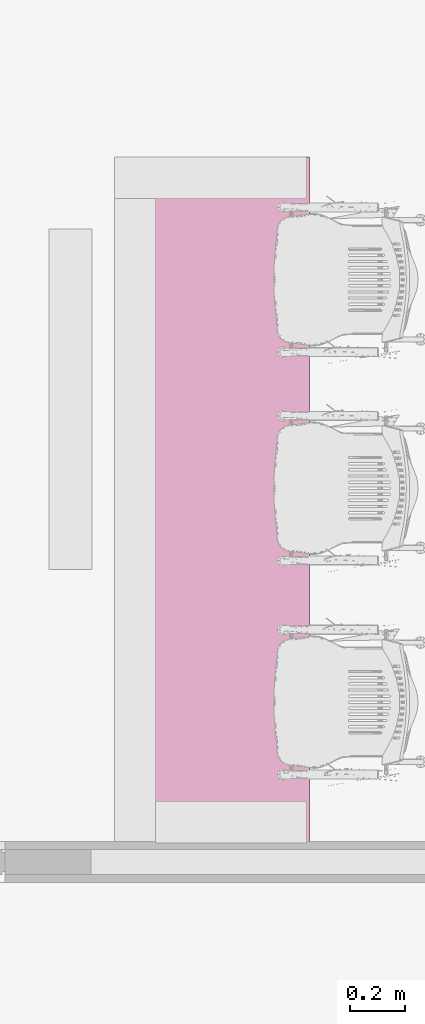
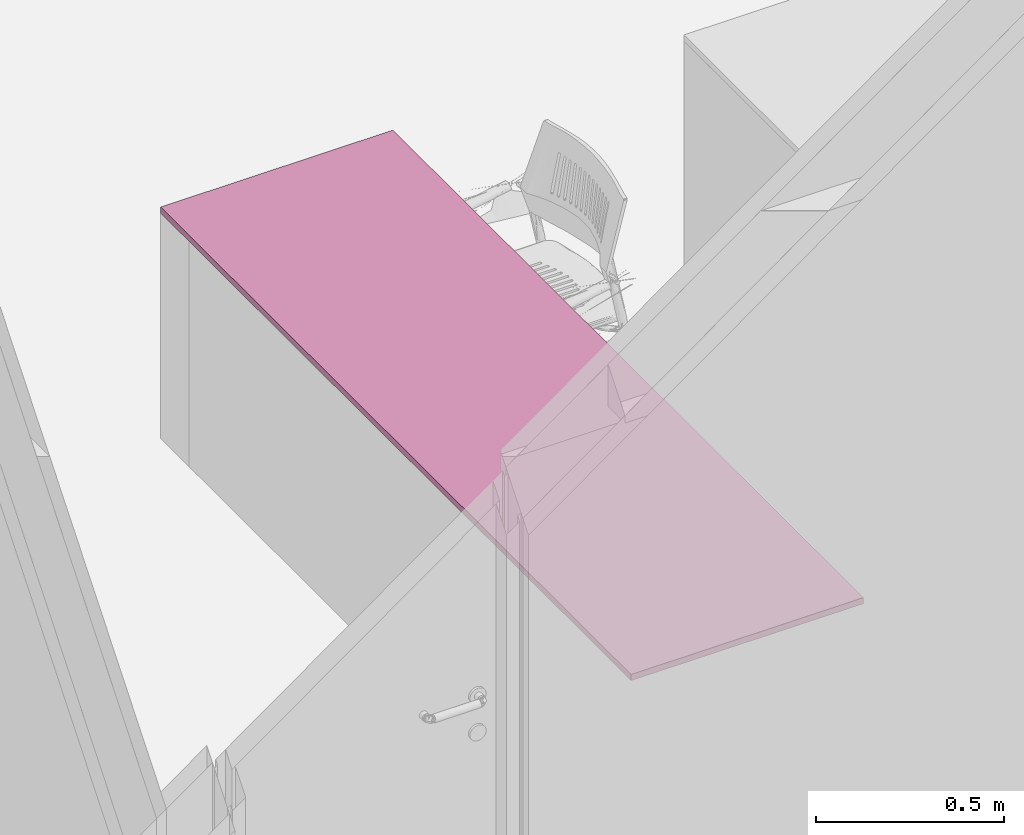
# One storey, part 143 of 155: 1 furnishing.
"""IFC2X3 building model written with IfcOpenShell, lengths in metres."""

from ifc_helpers import new_model, entity, si_unit, converted_unit, derived_unit, direction, frame, frame_2d, origin, place, context, subcontext, project, spatial, rectangle, extrude, source, transform, mapped, type_object, type_shapes, element, save


model = new_model("IFC2X3")

# Units and contexts
model_context = context("Model", 3, precision=1e-05, world=origin(), true_north=direction((6.12303176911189e-17, 1.0)))
body_context = subcontext(model_context, "Body", "Model", "MODEL_VIEW")
ifc_project = project(units=[si_unit("LENGTHUNIT", "METRE"), si_unit("AREAUNIT", "SQUARE_METRE"), si_unit("VOLUMEUNIT", "CUBIC_METRE"), converted_unit("PLANEANGLEUNIT", "DEGREE", entity("IfcRatioMeasure", 0.0174532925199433), si_unit("PLANEANGLEUNIT", "RADIAN"), dimensions=[0, 0, 0, 0, 0, 0, 0]), si_unit("MASSUNIT", "GRAM", prefix="KILO"), derived_unit("MASSDENSITYUNIT", [(si_unit("MASSUNIT", "GRAM", prefix="KILO"), 1), (si_unit("LENGTHUNIT", "METRE"), -3)]), si_unit("TIMEUNIT", "SECOND"), si_unit("FREQUENCYUNIT", "HERTZ"), si_unit("THERMODYNAMICTEMPERATUREUNIT", "DEGREE_CELSIUS"), derived_unit("THERMALTRANSMITTANCEUNIT", [(si_unit("MASSUNIT", "GRAM", prefix="KILO"), 1), (si_unit("THERMODYNAMICTEMPERATUREUNIT", "KELVIN"), -1), (si_unit("TIMEUNIT", "SECOND"), -3)]), derived_unit("VOLUMETRICFLOWRATEUNIT", [(si_unit("LENGTHUNIT", "METRE"), 3), (si_unit("TIMEUNIT", "SECOND"), -1)]), si_unit("ELECTRICCURRENTUNIT", "AMPERE"), si_unit("ELECTRICVOLTAGEUNIT", "VOLT"), si_unit("POWERUNIT", "WATT"), si_unit("FORCEUNIT", "NEWTON", prefix="KILO"), si_unit("ILLUMINANCEUNIT", "LUX"), si_unit("LUMINOUSFLUXUNIT", "LUMEN"), si_unit("LUMINOUSINTENSITYUNIT", "CANDELA"), derived_unit("USERDEFINED", [(si_unit("MASSUNIT", "GRAM", prefix="KILO"), -1), (si_unit("LENGTHUNIT", "METRE"), -2), (si_unit("TIMEUNIT", "SECOND"), 3), (si_unit("LUMINOUSFLUXUNIT", "LUMEN"), 1)]), derived_unit("LINEARVELOCITYUNIT", [(si_unit("LENGTHUNIT", "METRE"), 1), (si_unit("TIMEUNIT", "SECOND"), -1)]), si_unit("PRESSUREUNIT", "PASCAL"), derived_unit("USERDEFINED", [(si_unit("LENGTHUNIT", "METRE"), -2), (si_unit("MASSUNIT", "GRAM", prefix="KILO"), 1), (si_unit("TIMEUNIT", "SECOND"), -2)])], contexts=[model_context])

# Site, building, storey, space
site_placement = place(None, frame((26.9889013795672, -17.5624287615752, 0.0)))
site = spatial("IfcSite", under=ifc_project, at=site_placement, Name="Default", CompositionType="ELEMENT")
building_placement = place(site_placement, origin())
building = spatial("IfcBuilding", under=site, at=building_placement, Name="C. C. L. Monsenhor Antônio Sampaio", CompositionType="ELEMENT")
storey_placement = place(building_placement, frame((0.0, 0.0, 1.19999999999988)))
storey = spatial("IfcBuildingStorey", under=building, at=storey_placement, Name="Nível 1.2", CompositionType="ELEMENT", Elevation=1.19999999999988)
space_placement = place(storey_placement, origin())
space = spatial("IfcSpace", under=storey, at=space_placement, Name="89", CompositionType="ELEMENT", InteriorOrExteriorSpace="INTERNAL")

# Furnishing
furniture_type = type_object("IfcFurnitureType", Name="Bancada")
shared_shape = source(origin(), body_context, "Body", "SweptSolid", [
    extrude(rectangle(XDim=2.5, YDim=0.712499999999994, at=frame_2d((-1.11022302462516e-15, 0.0), x_axis=(1.0, 0.0))), frame((5.67569770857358, -15.5080663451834, 1.92999999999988), z_axis=(0.0, 0.0, 1.0), x_axis=(0.0, -1.0, 0.0)), (0.0, 0.0, 1.0), 0.0200000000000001),
])
type_shapes(furniture_type, [shared_shape])
furnishing_placement = place(space_placement, frame((0.0, 0.0, -1.19999999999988)))
element("IfcFurnishingElement", 1, at=furnishing_placement, inside=space, type_object=furniture_type, Name="Bancada_balcao:Bancada", ObjectType="Bancada", context=body_context, shape_type="MappedRepresentation", body=[
    mapped(shared_shape, transform((0.0, 0.0, 0.0), scale=1.0)),
])

save(model, "model.ifc")
